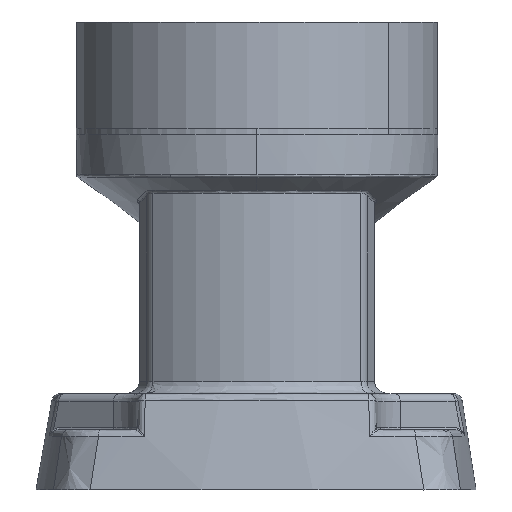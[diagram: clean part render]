
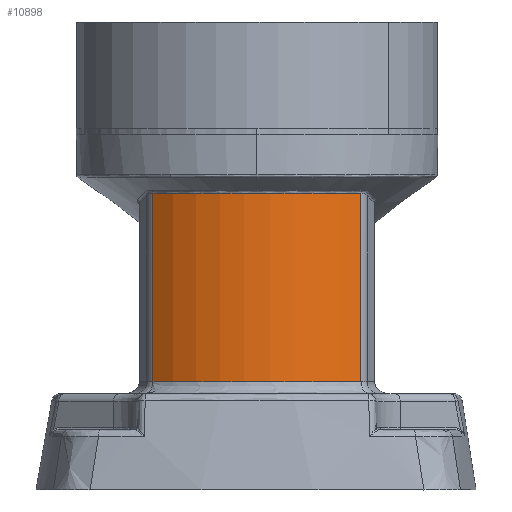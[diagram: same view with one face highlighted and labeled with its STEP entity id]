
A CAD part, left-side view. The second image highlights one B-rep face of the part: STEP entity #10898.
In plain terms, the highlighted cylindrical face has radius 40 mm (diameter 80 mm), a partial arc.
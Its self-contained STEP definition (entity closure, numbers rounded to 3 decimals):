
#199 = VERTEX_POINT ( 'NONE', #13303 ) ;
#284 = CIRCLE ( 'NONE', #12687, 40. ) ;
#1099 = DIRECTION ( 'NONE',  ( 0., 0., -1. ) ) ;
#1204 = EDGE_CURVE ( 'NONE', #15520, #199, #284, .T. ) ;
#1424 = DIRECTION ( 'NONE',  ( 1., 0., 0. ) ) ;
#2362 = EDGE_CURVE ( 'NONE', #12341, #16236, #11030, .T. ) ;
#2824 = EDGE_LOOP ( 'NONE', ( #7208, #12126, #3349, #14991 ) ) ;
#3208 = AXIS2_PLACEMENT_3D ( 'NONE', #12958, #5322, #14244 ) ;
#3349 = ORIENTED_EDGE ( 'NONE', *, *, #9659, .T. ) ;
#3359 = DIRECTION ( 'NONE',  ( 0., 0., -1. ) ) ;
#5290 = VECTOR ( 'NONE', #1099, 1000. ) ;
#5322 = DIRECTION ( 'NONE',  ( 0., 0., 1. ) ) ;
#6516 = CARTESIAN_POINT ( 'NONE',  ( -201.495, -25.885, -27.5 ) ) ;
#6669 = CARTESIAN_POINT ( 'NONE',  ( -201.495, 25.885, -42.5 ) ) ;
#6676 = FACE_OUTER_BOUND ( 'NONE', #2824, .T. ) ;
#7208 = ORIENTED_EDGE ( 'NONE', *, *, #11833, .F. ) ;
#8721 = LINE ( 'NONE', #10013, #5290 ) ;
#8893 = CYLINDRICAL_SURFACE ( 'NONE', #15066, 40. ) ;
#9659 = EDGE_CURVE ( 'NONE', #199, #12341, #8721, .T. ) ;
#10013 = CARTESIAN_POINT ( 'NONE',  ( -201.495, 25.885, -27.5 ) ) ;
#10258 = CARTESIAN_POINT ( 'NONE',  ( -201.495, -25.885, 4.327 ) ) ;
#10898 = ADVANCED_FACE ( 'NONE', ( #6676 ), #8893, .T. ) ;
#11002 = CARTESIAN_POINT ( 'NONE',  ( -171., 0., 4.327 ) ) ;
#11030 = CIRCLE ( 'NONE', #3208, 40. ) ;
#11433 = VECTOR ( 'NONE', #12972, 1000. ) ;
#11833 = EDGE_CURVE ( 'NONE', #15520, #16236, #11837, .T. ) ;
#11837 = LINE ( 'NONE', #6516, #11433 ) ;
#12126 = ORIENTED_EDGE ( 'NONE', *, *, #1204, .T. ) ;
#12281 = DIRECTION ( 'NONE',  ( 1., 0., 0. ) ) ;
#12341 = VERTEX_POINT ( 'NONE', #6669 ) ;
#12687 = AXIS2_PLACEMENT_3D ( 'NONE', #11002, #3359, #12281 ) ;
#12958 = CARTESIAN_POINT ( 'NONE',  ( -171., 0., -42.5 ) ) ;
#12972 = DIRECTION ( 'NONE',  ( 0., 0., -1. ) ) ;
#13303 = CARTESIAN_POINT ( 'NONE',  ( -201.495, 25.885, 4.327 ) ) ;
#14173 = CARTESIAN_POINT ( 'NONE',  ( -171., 0., -27.5 ) ) ;
#14244 = DIRECTION ( 'NONE',  ( 1., 0., 0. ) ) ;
#14809 = CARTESIAN_POINT ( 'NONE',  ( -201.495, -25.885, -42.5 ) ) ;
#14991 = ORIENTED_EDGE ( 'NONE', *, *, #2362, .T. ) ;
#15066 = AXIS2_PLACEMENT_3D ( 'NONE', #14173, #15412, #1424 ) ;
#15412 = DIRECTION ( 'NONE',  ( 0., 0., 1. ) ) ;
#15520 = VERTEX_POINT ( 'NONE', #10258 ) ;
#16236 = VERTEX_POINT ( 'NONE', #14809 ) ;
